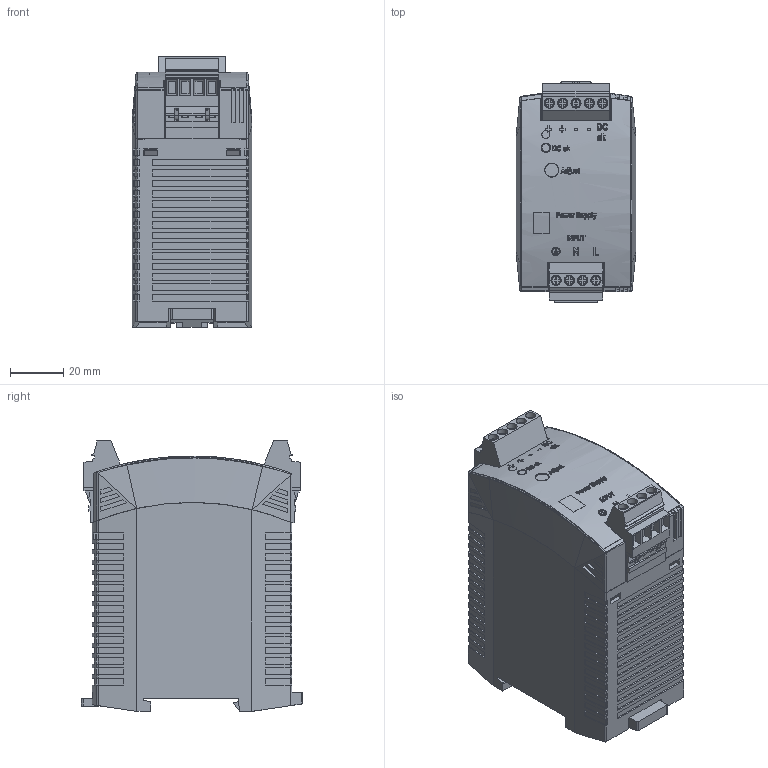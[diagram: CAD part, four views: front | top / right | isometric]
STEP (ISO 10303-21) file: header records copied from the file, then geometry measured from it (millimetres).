
FILE_DESCRIPTION((''),'2;1');
FILE_NAME('C:\Users\rahns\Desktop\Sylvia Info´s\Dateien für Vertrieb\ML50\111\md3_ml50_111.stp','2012-06-19T09:37:20',('rahns'),(''),'Autodesk Inventor 2009','Autodesk Inventor 2009','');
FILE_SCHEMA(('AUTOMOTIVE_DESIGN { 1 0 10303 214 1 1 1 1 }'));
Length unit declared in the file: millimetre
Products named in the file (11): 327; HOUSING BODY 322; HOUSING COVER 322; SLIDER 322; CONNECTOR 4P G41; CONNECTOR 5P G40; FRONTFOIL 327; TERMINAL 5P_05; BLZP_5_00_05_90_SN_SW_1958620000_2_14a; TERMINAL 4P 3_270; BLZP_5_00_04_90_SN_SW_1958630000_2_14a
Assembly tree (10 placements, depth 3):
  327
    HOUSING BODY 322
    HOUSING COVER 322
    SLIDER 322
    CONNECTOR 4P G41
    CONNECTOR 5P G40
    FRONTFOIL 327
    TERMINAL 5P_05
      BLZP_5_00_05_90_SN_SW_1958620000_2_14a
    TERMINAL 4P 3_270
      BLZP_5_00_04_90_SN_SW_1958630000_2_14a
Bounding box: 45 x 83 x 101.65 mm (x, y, z)
Volume: 296748.2 mm3; surface area: 56072.1 mm2
Topology: 13 solids, 13 shells, 2111 faces, 5792 edges, 3831 vertices
Faces by surface type: plane 1498, cylinder 324, bspline 246, cone 25, torus 18
Full cylindrical faces by diameter (mm): 3 x2, 3.62 x9, 3.8 x9, 5.2 x1
Entity records: 142427 total; most frequent: CARTESIAN_POINT 89815, ORIENTED_EDGE 11488, DIRECTION 9528, EDGE_CURVE 5744, VECTOR 4120, LINE 4120, VERTEX_POINT 3822, AXIS2_PLACEMENT_3D 2704
